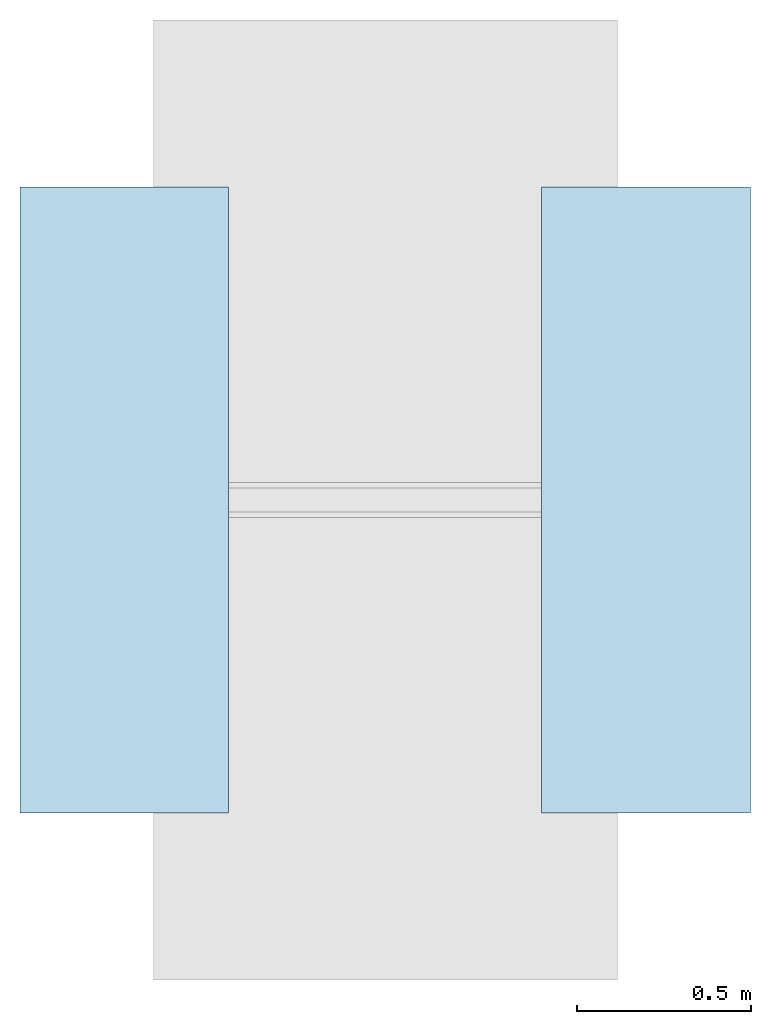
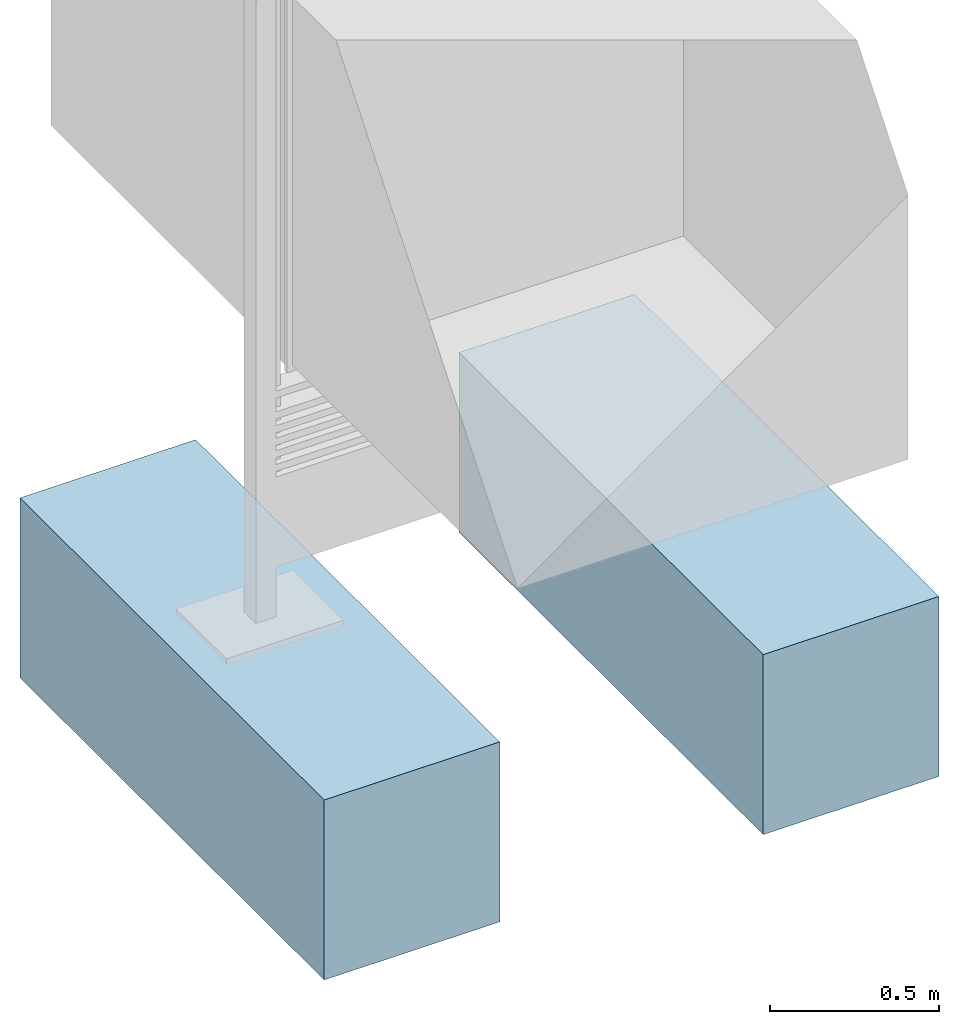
# One storey, incomplete: 2 slabs.
"""IFC4 building model written with IfcOpenShell, lengths in metres."""

from ifc_helpers import new_model, entity, si_unit, converted_unit, direction, frame, frame_2d, origin, origin_2d_with_axis, place, context, subcontext, project, spatial, rectangle, extrude, material, type_object, element, save


model = new_model("IFC4")

# Units and contexts
model_context = context("Model", 3, precision=1e-05, world=origin(), true_north=direction((6.123031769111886e-17, 1.0)))
body_context = subcontext(model_context, "Body", "Model", "MODEL_VIEW")
ifc_project = project(units=[si_unit("LENGTHUNIT", "METRE"), converted_unit("PLANEANGLEUNIT", "DEGREE", entity("IfcPlaneAngleMeasure", 0.017453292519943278), si_unit("PLANEANGLEUNIT", "RADIAN"), dimensions=[0, 0, 0, 0, 0, 0, 0]), si_unit("AREAUNIT", "SQUARE_METRE")], contexts=[model_context])

# Site, building, storey
site_placement = place(None, origin())
site = spatial("IfcSite", under=ifc_project, at=site_placement, Name="Default", CompositionType="ELEMENT")
building_placement = place(site_placement, origin())
building = spatial("IfcBuilding", under=site, at=building_placement, CompositionType="ELEMENT")
storey_placement = place(building_placement, origin())
storey = spatial("IfcBuildingStorey", under=building, at=storey_placement, Name="DB_Bezugshoehe_max_Bahnsteigkante", CompositionType="ELEMENT", Elevation=0.0)

# Slabs
ifc_material = material(Name="DB_Ortbeton", Category="DB_Beton")
slab_type = type_object("IfcSlabType", Name="DB_Vitrine_Fundament:DB_Vitrine_Fundament", PredefinedType="BASESLAB", material=ifc_material)
slab_1_placement = place(storey_placement, origin())
element("IfcSlab", 1, at=slab_1_placement, inside=storey, type_object=slab_type, Name="DB_Vitrine_Fundament:DB_Vitrine_Fundament", ObjectType="DB_Vitrine_Fundament:DB_Vitrine_Fundament", PredefinedType="BASESLAB", context=body_context, shape_type="SweptSolid", body=[
    extrude(rectangle(XDim=1.8, YDim=0.5999999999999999, at=frame_2d((0.0, -8.326672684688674e-17), x_axis=(1.0, 0.0))), frame((1.499374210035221, 0.0, 0.04999999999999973), z_axis=(0.0, 0.0, 1.0), x_axis=(0.0, 1.0, 0.0)), (0.0, 0.0, 1.0), 0.5999999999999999),
    extrude(rectangle(XDim=0.5999999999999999, YDim=1.7999999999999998, at=frame_2d((-1.3877787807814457e-16, 0.0), x_axis=(1.0, 0.0))), frame((1.4993742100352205, 0.0, 0.0), z_axis=(0.0, 0.0, 1.0), x_axis=(-1.0, 0.0, 0.0)), (0.0, 0.0, 1.0), 0.04999999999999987),
])
slab_2_placement = place(storey_placement, origin())
element("IfcSlab", 2, at=slab_2_placement, inside=storey, type_object=slab_type, Name="DB_Vitrine_Fundament:DB_Vitrine_Fundament", ObjectType="DB_Vitrine_Fundament:DB_Vitrine_Fundament", PredefinedType="BASESLAB", context=body_context, shape_type="SweptSolid", body=[
    extrude(rectangle(XDim=1.8, YDim=0.5999999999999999, at=origin_2d_with_axis()), frame((-0.0006257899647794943, 0.0, 0.04999999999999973), z_axis=(0.0, 0.0, 1.0), x_axis=(0.0, 1.0, 0.0)), (0.0, 0.0, 1.0), 0.5999999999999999),
    extrude(rectangle(XDim=0.5999999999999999, YDim=1.7999999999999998, at=origin_2d_with_axis()), frame((-0.0006257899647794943, 0.0, 0.0), z_axis=(0.0, 0.0, 1.0), x_axis=(-1.0, 0.0, 0.0)), (0.0, 0.0, 1.0), 0.04999999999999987),
])

save(model, "model.ifc")
